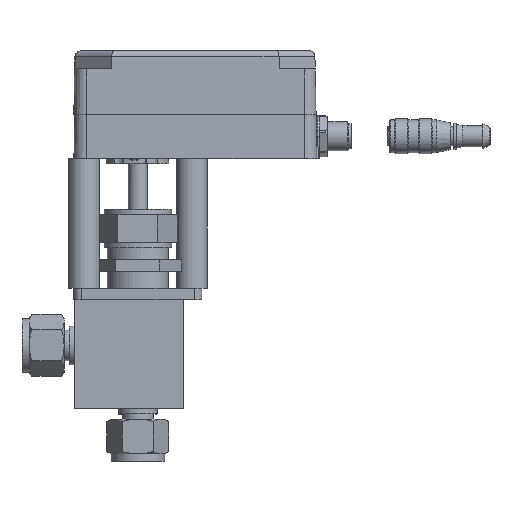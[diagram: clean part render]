
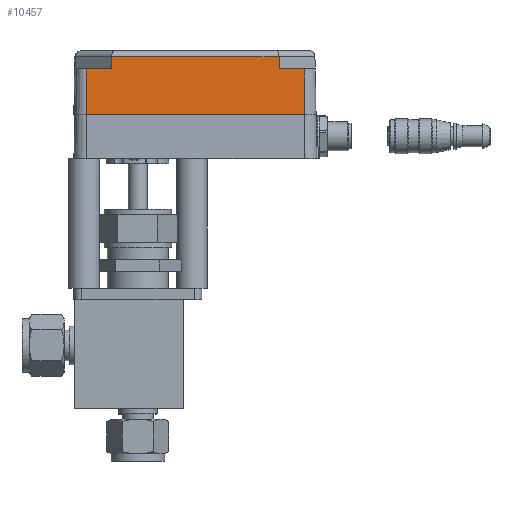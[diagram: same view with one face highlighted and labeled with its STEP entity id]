
A CAD part, top view. The second image highlights one B-rep face of the part: STEP entity #10457.
In plain terms, the highlighted planar face has unit normal (0.005, 0.018, 1).
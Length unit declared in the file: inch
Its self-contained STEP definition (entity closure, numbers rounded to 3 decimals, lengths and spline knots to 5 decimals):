
#17 = CARTESIAN_POINT ( 'NONE',  ( -1.87123, 0.73724, 1.4566 ) ) ;
#21 = DIRECTION ( 'NONE',  ( 1., 0., -0.005 ) ) ;
#112 = VERTEX_POINT ( 'NONE', #12237 ) ;
#120 = EDGE_CURVE ( 'NONE', #9949, #3260, #13260, .T. ) ;
#296 = ORIENTED_EDGE ( 'NONE', *, *, #1763, .F. ) ;
#347 = CARTESIAN_POINT ( 'NONE',  ( -1.87132, 1.67898, 1.44017 ) ) ;
#363 = ORIENTED_EDGE ( 'NONE', *, *, #9540, .F. ) ;
#593 = ORIENTED_EDGE ( 'NONE', *, *, #4617, .T. ) ;
#743 = DIRECTION ( 'NONE',  ( -1., 0., 0.005 ) ) ;
#1160 = ORIENTED_EDGE ( 'NONE', *, *, #12488, .T. ) ;
#1621 = CARTESIAN_POINT ( 'NONE',  ( 1.70113, 1.77724, 1.41887 ) ) ;
#1682 = LINE ( 'NONE', #1621, #12340 ) ;
#1762 = DIRECTION ( 'NONE',  ( 0., -1., 0.017 ) ) ;
#1763 = EDGE_CURVE ( 'NONE', #5511, #3260, #4000, .T. ) ;
#1926 = EDGE_CURVE ( 'NONE', #5511, #2306, #10357, .T. ) ;
#2035 = CARTESIAN_POINT ( 'NONE',  ( -1.87131, 1.47724, 1.44369 ) ) ;
#2291 = ORIENTED_EDGE ( 'NONE', *, *, #120, .T. ) ;
#2306 = VERTEX_POINT ( 'NONE', #10175 ) ;
#2362 = ORIENTED_EDGE ( 'NONE', *, *, #1926, .T. ) ;
#2620 = CARTESIAN_POINT ( 'NONE',  ( -1.87123, 0.73724, 1.4566 ) ) ;
#3260 = VERTEX_POINT ( 'NONE', #2035 ) ;
#3422 = VERTEX_POINT ( 'NONE', #12545 ) ;
#3548 = VECTOR ( 'NONE', #743, 39.37008 ) ;
#4000 = LINE ( 'NONE', #10031, #12601 ) ;
#4035 = VERTEX_POINT ( 'NONE', #9261 ) ;
#4176 = EDGE_LOOP ( 'NONE', ( #14698, #13214, #593, #2291, #296, #2362, #363, #1160 ) ) ;
#4617 = EDGE_CURVE ( 'NONE', #4035, #9949, #5128, .T. ) ;
#4900 = CARTESIAN_POINT ( 'NONE',  ( 1.28593, 1.67898, 1.42286 ) ) ;
#5037 = VECTOR ( 'NONE', #21, 39.37008 ) ;
#5128 = LINE ( 'NONE', #5146, #9886 ) ;
#5146 = CARTESIAN_POINT ( 'NONE',  ( -1.45544, 1.77423, 1.43622 ) ) ;
#5148 = DIRECTION ( 'NONE',  ( -0.007, -1., 0.017 ) ) ;
#5364 = DIRECTION ( 'NONE',  ( -1., 0., 0.005 ) ) ;
#5511 = VERTEX_POINT ( 'NONE', #2620 ) ;
#5750 = EDGE_CURVE ( 'NONE', #3422, #11079, #9403, .T. ) ;
#5801 = VECTOR ( 'NONE', #11802, 39.37008 ) ;
#6959 = LINE ( 'NONE', #11478, #3548 ) ;
#9261 = CARTESIAN_POINT ( 'NONE',  ( -1.45612, 1.67898, 1.43789 ) ) ;
#9324 = DIRECTION ( 'NONE',  ( -0.007, 1., -0.017 ) ) ;
#9389 = CARTESIAN_POINT ( 'NONE',  ( 1.28505, 1.80005, 1.42076 ) ) ;
#9403 = LINE ( 'NONE', #9389, #14088 ) ;
#9540 = EDGE_CURVE ( 'NONE', #112, #2306, #1682, .T. ) ;
#9886 = VECTOR ( 'NONE', #5148, 39.37008 ) ;
#9949 = VERTEX_POINT ( 'NONE', #10174 ) ;
#10028 = DIRECTION ( 'NONE',  ( 0., 1., -0.017 ) ) ;
#10031 = CARTESIAN_POINT ( 'NONE',  ( -1.87123, 0.73724, 1.4566 ) ) ;
#10174 = CARTESIAN_POINT ( 'NONE',  ( -1.45756, 1.47724, 1.44142 ) ) ;
#10175 = CARTESIAN_POINT ( 'NONE',  ( 1.70123, 0.73724, 1.43703 ) ) ;
#10357 = LINE ( 'NONE', #17, #5037 ) ;
#10457 = ADVANCED_FACE ( 'NONE', ( #14362 ), #14957, .T. ) ;
#11079 = VERTEX_POINT ( 'NONE', #4900 ) ;
#11103 = LINE ( 'NONE', #347, #15058 ) ;
#11478 = CARTESIAN_POINT ( 'NONE',  ( -1.87131, 1.47724, 1.44369 ) ) ;
#11802 = DIRECTION ( 'NONE',  ( -1., 0., 0.005 ) ) ;
#12237 = CARTESIAN_POINT ( 'NONE',  ( 1.70116, 1.47724, 1.42411 ) ) ;
#12340 = VECTOR ( 'NONE', #1762, 39.37008 ) ;
#12488 = EDGE_CURVE ( 'NONE', #112, #3422, #6959, .T. ) ;
#12545 = CARTESIAN_POINT ( 'NONE',  ( 1.28741, 1.47724, 1.42638 ) ) ;
#12601 = VECTOR ( 'NONE', #10028, 39.37008 ) ;
#12855 = AXIS2_PLACEMENT_3D ( 'NONE', #14716, #14696, #14677 ) ;
#13214 = ORIENTED_EDGE ( 'NONE', *, *, #13818, .T. ) ;
#13260 = LINE ( 'NONE', #13263, #5801 ) ;
#13263 = CARTESIAN_POINT ( 'NONE',  ( -1.87131, 1.47724, 1.44369 ) ) ;
#13818 = EDGE_CURVE ( 'NONE', #11079, #4035, #11103, .T. ) ;
#14088 = VECTOR ( 'NONE', #9324, 39.37008 ) ;
#14362 = FACE_OUTER_BOUND ( 'NONE', #4176, .T. ) ;
#14677 = DIRECTION ( 'NONE',  ( 1., 0., -0.005 ) ) ;
#14696 = DIRECTION ( 'NONE',  ( 0.005, 0.017, 1. ) ) ;
#14698 = ORIENTED_EDGE ( 'NONE', *, *, #5750, .T. ) ;
#14716 = CARTESIAN_POINT ( 'NONE',  ( -1.87133, 1.77724, 1.43845 ) ) ;
#14957 = PLANE ( 'NONE',  #12855 ) ;
#15058 = VECTOR ( 'NONE', #5364, 39.37008 ) ;
